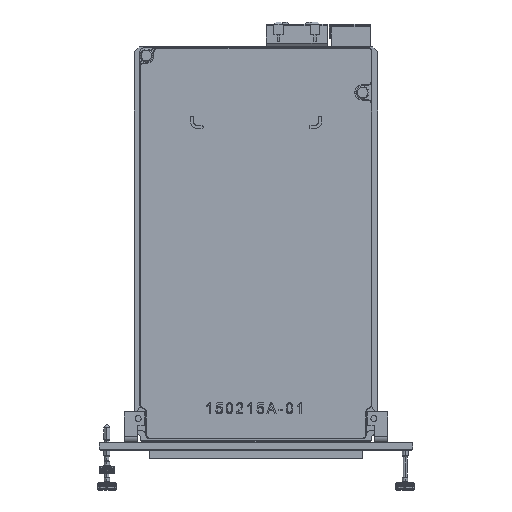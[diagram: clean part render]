
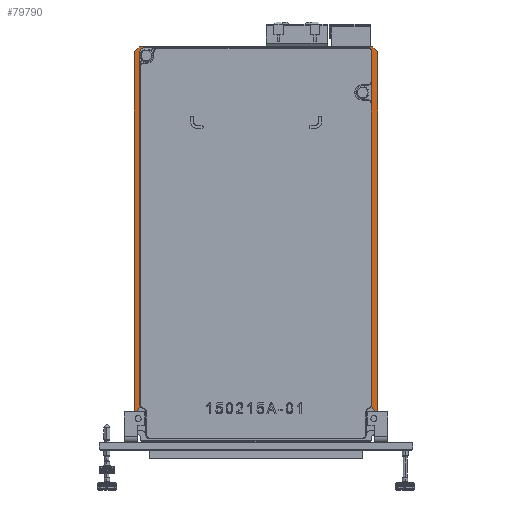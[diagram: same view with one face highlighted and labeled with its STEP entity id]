
A CAD part, left-side view. The second image highlights one B-rep face of the part: STEP entity #79790.
In plain terms, the highlighted planar face has unit normal (-1, 0, 0).
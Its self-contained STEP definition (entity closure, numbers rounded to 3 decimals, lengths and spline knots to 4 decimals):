
#8102=DIRECTION('',(0.,0.,-1.));
#8103=VECTOR('',#8102,5.821);
#8104=CARTESIAN_POINT('',(-0.302,1.968,6.426));
#8105=LINE('',#8104,#8103);
#8261=DIRECTION('',(0.,-1.,0.));
#8262=VECTOR('',#8261,0.01);
#8263=CARTESIAN_POINT('',(-0.302,1.968,0.605));
#8264=LINE('',#8263,#8262);
#8265=DIRECTION('',(0.,-1.,0.));
#8266=VECTOR('',#8265,3.779);
#8267=CARTESIAN_POINT('',(-0.302,1.889,6.505));
#8268=LINE('',#8267,#8266);
#8269=DIRECTION('',(0.,0.,-1.));
#8270=VECTOR('',#8269,5.821);
#8271=CARTESIAN_POINT('',(-0.302,-1.969,6.426));
#8272=LINE('',#8271,#8270);
#8273=DIRECTION('',(0.,1.,0.));
#8274=VECTOR('',#8273,0.01);
#8275=CARTESIAN_POINT('',(-0.302,-1.969,0.605));
#8276=LINE('',#8275,#8274);
#8277=CARTESIAN_POINT('',(-0.302,-1.988,0.7184));
#8278=DIRECTION('',(-1.,0.,0.));
#8279=DIRECTION('',(0.,1.,0.));
#8280=AXIS2_PLACEMENT_3D('',#8277,#8278,#8279);
#8282=DIRECTION('',(0.,0.,1.));
#8283=VECTOR('',#8282,5.7216);
#8284=CARTESIAN_POINT('',(-0.302,-1.871,0.7184));
#8285=LINE('',#8284,#8283);
#8286=CARTESIAN_POINT('',(-0.302,-1.821,6.44));
#8287=DIRECTION('',(1.,0.,0.));
#8288=DIRECTION('',(0.,0.,1.));
#8289=AXIS2_PLACEMENT_3D('',#8286,#8287,#8288);
#8291=DIRECTION('',(0.,1.,0.));
#8292=VECTOR('',#8291,3.636);
#8293=CARTESIAN_POINT('',(-0.302,-1.821,6.49));
#8294=LINE('',#8293,#8292);
#8295=CARTESIAN_POINT('',(-0.302,1.815,6.427));
#8296=DIRECTION('',(1.,0.,0.));
#8297=DIRECTION('',(0.,1.,0.));
#8298=AXIS2_PLACEMENT_3D('',#8295,#8296,#8297);
#8300=DIRECTION('',(0.,0.,-1.));
#8301=VECTOR('',#8300,5.7065);
#8302=CARTESIAN_POINT('',(-0.302,1.878,6.427));
#8303=LINE('',#8302,#8301);
#8304=CARTESIAN_POINT('',(-0.302,2.0014,0.7205));
#8305=DIRECTION('',(-1.,0.,0.));
#8306=DIRECTION('',(0.,-0.352,-0.936));
#8307=AXIS2_PLACEMENT_3D('',#8304,#8305,#8306);
#8313=DIRECTION('',(0.,0.707,-0.707));
#8314=VECTOR('',#8313,0.1117);
#8315=CARTESIAN_POINT('',(-0.302,1.889,6.505));
#8316=LINE('',#8315,#8314);
#16089=DIRECTION('',(0.,0.707,0.707));
#16090=VECTOR('',#16089,0.1117);
#16091=CARTESIAN_POINT('',(-0.302,-1.969,6.426));
#16092=LINE('',#16091,#16090);
#58952=CARTESIAN_POINT('',(-0.302,1.889,6.505));
#58954=VERTEX_POINT('',#58952);
#58956=CARTESIAN_POINT('',(-0.302,1.968,6.426));
#58958=VERTEX_POINT('',#58956);
#58960=CARTESIAN_POINT('',(-0.302,-1.969,6.426));
#58962=VERTEX_POINT('',#58960);
#58964=CARTESIAN_POINT('',(-0.302,-1.89,6.505));
#58966=VERTEX_POINT('',#58964);
#74741=CARTESIAN_POINT('',(-0.302,1.968,0.605));
#74742=CARTESIAN_POINT('',(-0.302,1.958,0.605));
#74743=VERTEX_POINT('',#74741);
#74744=VERTEX_POINT('',#74742);
#74753=CARTESIAN_POINT('',(-0.302,-1.969,0.605));
#74754=CARTESIAN_POINT('',(-0.302,-1.959,0.605));
#74755=VERTEX_POINT('',#74753);
#74756=VERTEX_POINT('',#74754);
#74793=CARTESIAN_POINT('',(-0.302,-1.871,0.7184));
#74794=CARTESIAN_POINT('',(-0.302,-1.871,6.44));
#74795=VERTEX_POINT('',#74793);
#74796=VERTEX_POINT('',#74794);
#74797=CARTESIAN_POINT('',(-0.302,-1.821,6.49));
#74798=CARTESIAN_POINT('',(-0.302,1.815,6.49));
#74799=VERTEX_POINT('',#74797);
#74800=VERTEX_POINT('',#74798);
#74801=CARTESIAN_POINT('',(-0.302,1.878,6.427));
#74802=CARTESIAN_POINT('',(-0.302,1.878,0.7205));
#74803=VERTEX_POINT('',#74801);
#74804=VERTEX_POINT('',#74802);
#79757=CARTESIAN_POINT('',(-0.302,-1.969,0.215));
#79758=DIRECTION('',(1.,0.,0.));
#79759=DIRECTION('',(0.,0.,1.));
#79760=AXIS2_PLACEMENT_3D('',#79757,#79758,#79759);
#79761=PLANE('',#79760);
#79762=ORIENTED_EDGE('',*,*,#79742,.F.);
#79763=ORIENTED_EDGE('',*,*,#79596,.F.);
#79765=ORIENTED_EDGE('',*,*,#79764,.F.);
#79767=ORIENTED_EDGE('',*,*,#79766,.T.);
#79769=ORIENTED_EDGE('',*,*,#79768,.F.);
#79771=ORIENTED_EDGE('',*,*,#79770,.T.);
#79773=ORIENTED_EDGE('',*,*,#79772,.T.);
#79775=ORIENTED_EDGE('',*,*,#79774,.F.);
#79777=ORIENTED_EDGE('',*,*,#79776,.T.);
#79779=ORIENTED_EDGE('',*,*,#79778,.F.);
#79781=ORIENTED_EDGE('',*,*,#79780,.T.);
#79783=ORIENTED_EDGE('',*,*,#79782,.F.);
#79785=ORIENTED_EDGE('',*,*,#79784,.T.);
#79787=ORIENTED_EDGE('',*,*,#79786,.F.);
#79788=EDGE_LOOP('',(#79762,#79763,#79765,#79767,#79769,#79771,#79773,#79775,
#79777,#79779,#79781,#79783,#79785,#79787));
#79789=FACE_OUTER_BOUND('',#79788,.F.);
#79790=ADVANCED_FACE('',(#79789),#79761,.F.);
#8281=CIRCLE('',#8280,0.117);
#8290=CIRCLE('',#8289,0.05);
#8299=CIRCLE('',#8298,0.063);
#8308=CIRCLE('',#8307,0.1234);
#79596=EDGE_CURVE('',#58958,#74743,#8105,.T.);
#79742=EDGE_CURVE('',#74743,#74744,#8264,.T.);
#79764=EDGE_CURVE('',#58954,#58958,#8316,.T.);
#79766=EDGE_CURVE('',#58954,#58966,#8268,.T.);
#79768=EDGE_CURVE('',#58962,#58966,#16092,.T.);
#79770=EDGE_CURVE('',#58962,#74755,#8272,.T.);
#79772=EDGE_CURVE('',#74755,#74756,#8276,.T.);
#79774=EDGE_CURVE('',#74795,#74756,#8281,.T.);
#79776=EDGE_CURVE('',#74795,#74796,#8285,.T.);
#79778=EDGE_CURVE('',#74799,#74796,#8290,.T.);
#79780=EDGE_CURVE('',#74799,#74800,#8294,.T.);
#79782=EDGE_CURVE('',#74803,#74800,#8299,.T.);
#79784=EDGE_CURVE('',#74803,#74804,#8303,.T.);
#79786=EDGE_CURVE('',#74744,#74804,#8308,.T.);
